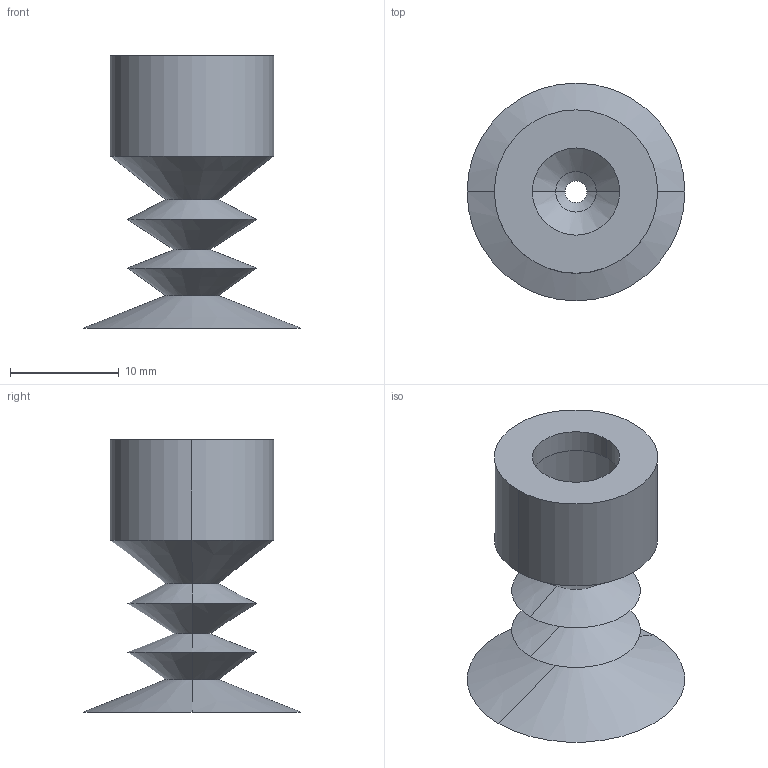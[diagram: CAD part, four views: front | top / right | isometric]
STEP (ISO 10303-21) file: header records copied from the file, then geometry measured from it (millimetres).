
FILE_DESCRIPTION (( 'STEP AP214' ), '1' );
FILE_NAME ('VSH3-M20.STEP', '2019-12-02T08:32:04', ( '微软用户' ), ( '微软中国' ), 'SwSTEP 2.0', 'SolidWorks 2016', '' );
FILE_SCHEMA (( 'AUTOMOTIVE_DESIGN' ));
Length unit declared in the file: millimetre
Products named in the file (1): VSH3-M20
Bounding box: 20 x 20 x 25 mm (x, y, z)
Volume: 695.6 mm3; surface area: 2890.9 mm2
Topology: 1 solids, 1 shells, 36 faces, 72 edges, 40 vertices
Faces by surface type: cone 24, cylinder 8, plane 4
Entity records: 962 total; most frequent: DIRECTION 186, CARTESIAN_POINT 149, ORIENTED_EDGE 144, AXIS2_PLACEMENT_3D 77, EDGE_CURVE 72, VERTEX_POINT 40, EDGE_LOOP 40, CIRCLE 40
